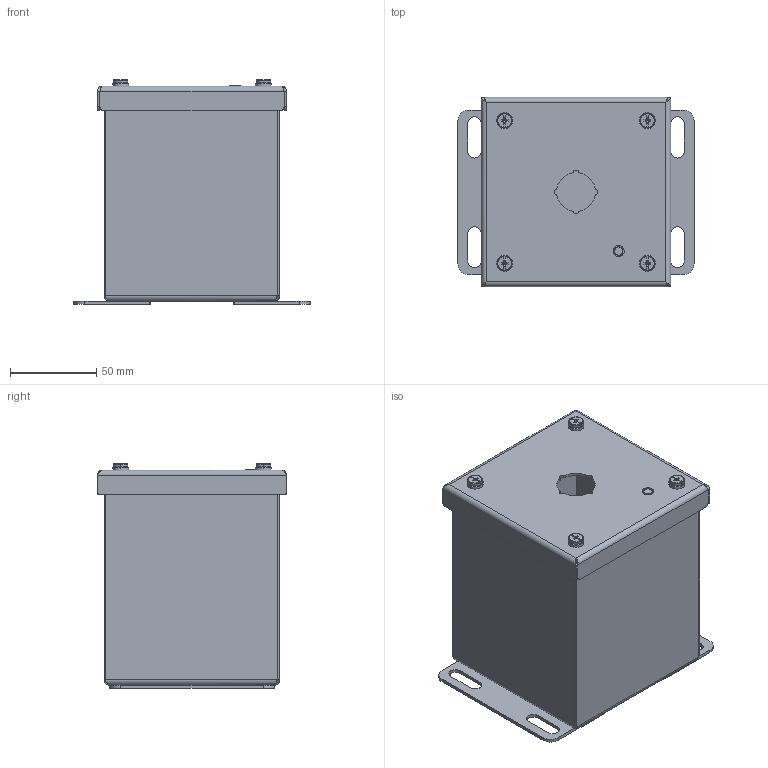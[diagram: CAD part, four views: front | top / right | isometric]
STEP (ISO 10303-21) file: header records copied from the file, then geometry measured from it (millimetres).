
FILE_DESCRIPTION((''),'2;1');
FILE_NAME('MODEL-394_ASM','2021-06-07T08:56:22',('mikek'),('SAGINAW CONTROL & ENGINEERING'),'CREO PARAMETRIC BY PTC INC, 2017260','CREO PARAMETRIC BY PTC INC, 2017260','');
FILE_SCHEMA(('AUTOMOTIVE_DESIGN { 1 0 10303 214 1 1 1 1 }'));
Length unit declared in the file: inch
Products named in the file (10): MODEL-394-BDY; MODEL-394-DR; 100097; 102197; 101966; 100012; 102599; 102534; MODEL-394-GSKT; MODEL-394_ASM
Assembly tree (16 placements, depth 2):
  MODEL-394_ASM
    MODEL-394-BDY
    MODEL-394-DR
    100097
    102197  x2
    101966
    100012
    102599  x4
    102534  x4
    MODEL-394-GSKT
Bounding box: 136.53 x 109.54 x 130.14 mm (x, y, z)
Volume: 140557.9 mm3; surface area: 185065 mm2
Topology: 19 solids, 19 shells, 727 faces, 1798 edges, 1052 vertices
Faces by surface type: plane 267, cylinder 236, bspline 108, torus 88, cone 28
Entity records: 21244 total; most frequent: CARTESIAN_POINT 5807, DIRECTION 2044, ORIENTED_EDGE 1984, EDGE_CURVE 992, PRESENTATION_STYLE_ASSIGNMENT 904, STYLED_ITEM 904, CURVE_STYLE 828, AXIS2_PLACEMENT_3D 739
